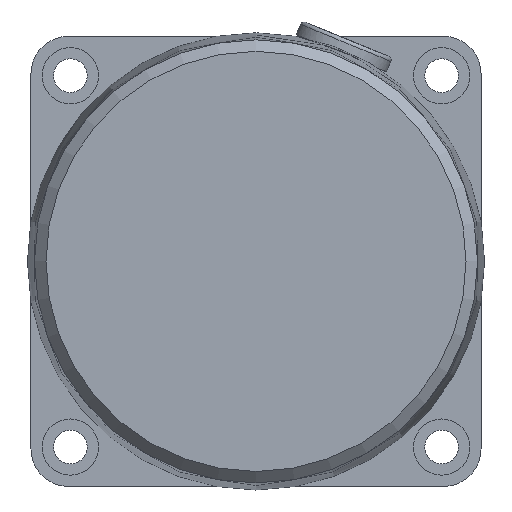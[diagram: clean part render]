
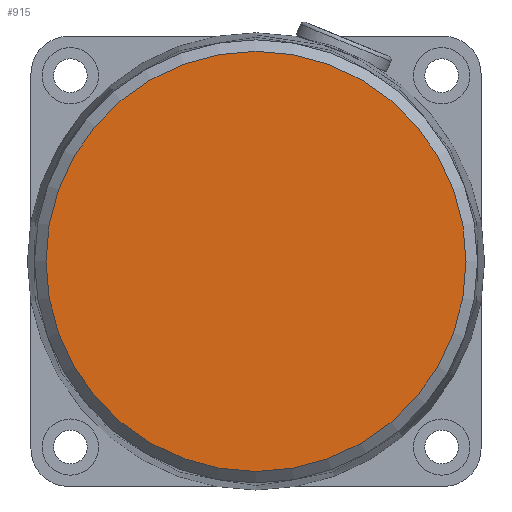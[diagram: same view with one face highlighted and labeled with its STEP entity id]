
A CAD part, left-side view. The second image highlights one B-rep face of the part: STEP entity #915.
In plain terms, the highlighted planar face has unit normal (-1, 0, 0).
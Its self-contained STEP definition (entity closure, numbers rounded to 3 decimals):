
#884=CARTESIAN_POINT('',(-36.5,0.,28.));
#885=VERTEX_POINT('',#884);
#886=CARTESIAN_POINT('',(-36.5,0.,0.));
#887=DIRECTION('',(1.0,0.0,0.0));
#888=DIRECTION('',(0.0,0.0,-1.0));
#889=AXIS2_PLACEMENT_3D('',#886,#887,#888);
#890=CIRCLE('',#889,28.);
#891=EDGE_CURVE('',#885,#885,#890,.T.);
#907=CARTESIAN_POINT('',(-36.5,0.,0.));
#908=DIRECTION('',(1.0,0.0,0.0));
#909=DIRECTION('',(0.0,0.0,-1.0));
#910=AXIS2_PLACEMENT_3D('',#907,#908,#909);
#911=PLANE('',#910);
#912=ORIENTED_EDGE('',*,*,#891,.F.);
#913=EDGE_LOOP('',(#912));
#914=FACE_OUTER_BOUND('',#913,.T.);
#915=ADVANCED_FACE('',(#914),#911,.F.);
